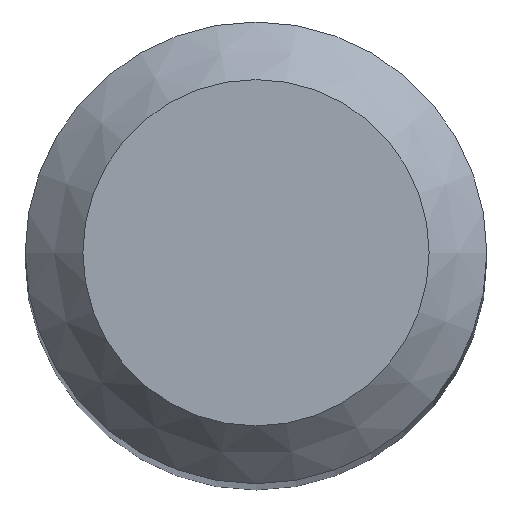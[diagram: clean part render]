
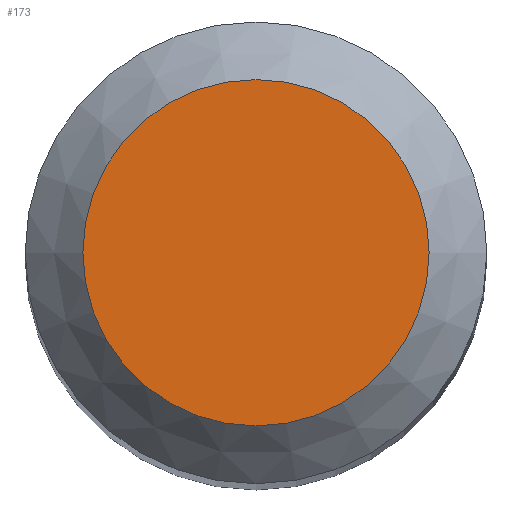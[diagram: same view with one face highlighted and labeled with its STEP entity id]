
A CAD part, top view. The second image highlights one B-rep face of the part: STEP entity #173.
In plain terms, the highlighted planar face has unit normal (0, 0, 1).
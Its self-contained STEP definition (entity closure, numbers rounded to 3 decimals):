
#153=CARTESIAN_POINT('',(-1.5,0.,45.0));
#154=VERTEX_POINT('',#153);
#155=CARTESIAN_POINT('',(0.0,0.,45.0));
#156=DIRECTION('',(0.0,0.0,-1.0));
#157=DIRECTION('',(-1.0,0.0,0.0));
#158=AXIS2_PLACEMENT_3D('',#155,#156,#157);
#159=CIRCLE('',#158,1.5);
#160=EDGE_CURVE('',#154,#154,#159,.T.);
#165=CARTESIAN_POINT('',(-1.5,0.,45.0));
#166=DIRECTION('',(0.0,0.0,1.0));
#167=DIRECTION('',(1.0,0.0,0.0));
#168=AXIS2_PLACEMENT_3D('',#165,#166,#167);
#169=PLANE('',#168);
#170=ORIENTED_EDGE('',*,*,#160,.F.);
#171=EDGE_LOOP('',(#170));
#172=FACE_OUTER_BOUND('',#171,.T.);
#173=ADVANCED_FACE('',(#172),#169,.T.);
